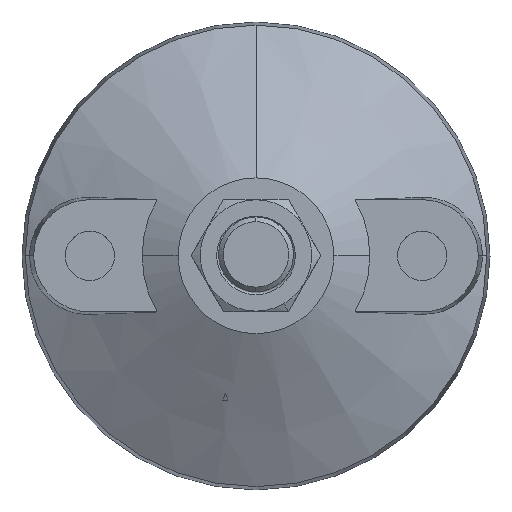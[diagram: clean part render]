
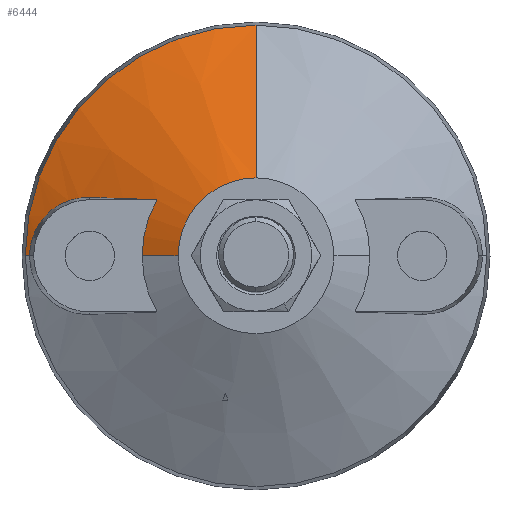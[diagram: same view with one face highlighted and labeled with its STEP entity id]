
A CAD part, top view. The second image highlights one B-rep face of the part: STEP entity #6444.
In plain terms, the highlighted conical face has half-angle 62.5 degrees and reference radius 16.644 mm.
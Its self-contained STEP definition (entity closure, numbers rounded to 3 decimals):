
#24 = CARTESIAN_POINT ( 'NONE',  ( -25.968, 12.158, 20.745 ) ) ;
#160 = CARTESIAN_POINT ( 'NONE',  ( 0., 0., 27. ) ) ;
#305 = CARTESIAN_POINT ( 'NONE',  ( -39.403, 12.001, 14.222 ) ) ;
#335 = CARTESIAN_POINT ( 'NONE',  ( -47.122, 5.479, 10.97 ) ) ;
#379 = EDGE_CURVE ( 'NONE', #1112, #3037, #7641, .T. ) ;
#562 = AXIS2_PLACEMENT_3D ( 'NONE', #5913, #1939, #6557 ) ;
#592 = ORIENTED_EDGE ( 'NONE', *, *, #4743, .T. ) ;
#686 = EDGE_CURVE ( 'NONE', #8523, #1112, #7486, .T. ) ;
#729 = CARTESIAN_POINT ( 'NONE',  ( -32.972, 0., 18.5 ) ) ;
#761 = CARTESIAN_POINT ( 'NONE',  ( 0., 16.644, 27. ) ) ;
#829 = CARTESIAN_POINT ( 'NONE',  ( 0., 0., 27. ) ) ;
#840 = DIRECTION ( 'NONE',  ( 0., 1., 0. ) ) ;
#849 = CARTESIAN_POINT ( 'NONE',  ( -48.375, 0., 10.482 ) ) ;
#886 = EDGE_CURVE ( 'NONE', #3379, #6503, #3384, .T. ) ;
#972 = CARTESIAN_POINT ( 'NONE',  ( -40.932, 11.466, 13.537 ) ) ;
#1005 = CARTESIAN_POINT ( 'NONE',  ( -47.915, 3.477, 10.66 ) ) ;
#1112 = VERTEX_POINT ( 'NONE', #2035 ) ;
#1364 = CARTESIAN_POINT ( 'NONE',  ( -30.743, 12.32, 18.429 ) ) ;
#1633 = CARTESIAN_POINT ( 'NONE',  ( -42.708, 10.482, 12.772 ) ) ;
#1665 = CARTESIAN_POINT ( 'NONE',  ( -48.259, 1.756, 10.526 ) ) ;
#1892 = CARTESIAN_POINT ( 'NONE',  ( 0., 49.301, 10. ) ) ;
#1939 = DIRECTION ( 'NONE',  ( 0., 0., -1. ) ) ;
#2013 = CARTESIAN_POINT ( 'NONE',  ( -35.5, 12.484, 16.075 ) ) ;
#2035 = CARTESIAN_POINT ( 'NONE',  ( -21.162, 12., 23. ) ) ;
#2072 = CONICAL_SURFACE ( 'NONE', #4959, 16.644, 1.091 ) ;
#2138 = CIRCLE ( 'NONE', #8180, 49.301 ) ;
#2145 = VECTOR ( 'NONE', #7369, 1000. ) ;
#2260 = CARTESIAN_POINT ( 'NONE',  ( -35.5, 12.484, 16.075 ) ) ;
#2289 = CARTESIAN_POINT ( 'NONE',  ( -43.712, 9.755, 12.35 ) ) ;
#2318 = CARTESIAN_POINT ( 'NONE',  ( -48.375, 0.442, 10.482 ) ) ;
#2481 = CARTESIAN_POINT ( 'NONE',  ( 0., 0., 10. ) ) ;
#2760 = DIRECTION ( 'NONE',  ( 0., 1., 0. ) ) ;
#2868 = ORIENTED_EDGE ( 'NONE', *, *, #4423, .T. ) ;
#2962 = CARTESIAN_POINT ( 'NONE',  ( -44.962, 8.632, 11.834 ) ) ;
#3037 = VERTEX_POINT ( 'NONE', #3202 ) ;
#3120 = ORIENTED_EDGE ( 'NONE', *, *, #886, .T. ) ;
#3149 = DIRECTION ( 'NONE',  ( -1., 0., 0. ) ) ;
#3202 = CARTESIAN_POINT ( 'NONE',  ( -35.5, 12.484, 16.075 ) ) ;
#3263 = ORIENTED_EDGE ( 'NONE', *, *, #7532, .T. ) ;
#3379 = VERTEX_POINT ( 'NONE', #8235 ) ;
#3384 = LINE ( 'NONE', #6232, #6476 ) ;
#3481 = CARTESIAN_POINT ( 'NONE',  ( -24.328, 0., 23. ) ) ;
#3606 = CARTESIAN_POINT ( 'NONE',  ( -37.073, 12.464, 15.305 ) ) ;
#3646 = CARTESIAN_POINT ( 'NONE',  ( -46.262, 6.974, 11.31 ) ) ;
#4048 = FACE_OUTER_BOUND ( 'NONE', #5806, .T. ) ;
#4129 = DIRECTION ( 'NONE',  ( 0., 0., -1. ) ) ;
#4262 = VERTEX_POINT ( 'NONE', #5623 ) ;
#4283 = CARTESIAN_POINT ( 'NONE',  ( -38.63, 12.2, 14.576 ) ) ;
#4309 = CARTESIAN_POINT ( 'NONE',  ( -46.925, 5.866, 11.047 ) ) ;
#4423 = EDGE_CURVE ( 'NONE', #8523, #4262, #5177, .T. ) ;
#4669 = CARTESIAN_POINT ( 'NONE',  ( -23.573, 12.078, 21.889 ) ) ;
#4673 = EDGE_CURVE ( 'NONE', #3037, #6503, #5585, .T. ) ;
#4709 = DIRECTION ( 'NONE',  ( 0.887, 0., 0.462 ) ) ;
#4743 = EDGE_CURVE ( 'NONE', #7925, #3379, #2138, .T. ) ;
#4801 = DIRECTION ( 'NONE',  ( 0., 0., 1. ) ) ;
#4948 = CARTESIAN_POINT ( 'NONE',  ( -39.79, 11.882, 14.047 ) ) ;
#4959 = AXIS2_PLACEMENT_3D ( 'NONE', #829, #4129, #2760 ) ;
#4986 = CARTESIAN_POINT ( 'NONE',  ( -47.647, 4.298, 10.764 ) ) ;
#5177 = LINE ( 'NONE', #729, #6891 ) ;
#5330 = CARTESIAN_POINT ( 'NONE',  ( -21.162, 12., 23. ) ) ;
#5585 = B_SPLINE_CURVE_WITH_KNOTS ( 'NONE', 3,
 ( #2260, #6225, #3606, #8213, #4283, #305, #4948, #972, #5608, #1633, #6251, #2289, #6917, #2962, #7573, #3646, #8247, #4309, #335, #4986, #1005, #5637, #1665, #6285, #2318, #6946 ),
 .UNSPECIFIED., .F., .F.,
 ( 4, 2, 2, 2, 2, 2, 2, 2, 2, 2, 2, 2, 4 ),
 ( 0., 0.003, 0.004, 0.005, 0.008, 0.009, 0.01, 0.013, 0.014, 0.016, 0.018, 0.02, 0.021 ),
 .UNSPECIFIED. ) ;
#5608 = CARTESIAN_POINT ( 'NONE',  ( -41.663, 11.116, 13.219 ) ) ;
#5623 = CARTESIAN_POINT ( 'NONE',  ( -16.644, 0., 27. ) ) ;
#5637 = CARTESIAN_POINT ( 'NONE',  ( -48.19, 2.194, 10.553 ) ) ;
#5718 = DIRECTION ( 'NONE',  ( 0.887, 0., 0.462 ) ) ;
#5806 = EDGE_LOOP ( 'NONE', ( #8169, #3263, #592, #3120, #8023, #8577, #7295, #2868 ) ) ;
#5913 = CARTESIAN_POINT ( 'NONE',  ( 0., 0., 23. ) ) ;
#5984 = CARTESIAN_POINT ( 'NONE',  ( -33.124, 12.402, 17.256 ) ) ;
#6225 = CARTESIAN_POINT ( 'NONE',  ( -36.289, 12.512, 15.683 ) ) ;
#6232 = CARTESIAN_POINT ( 'NONE',  ( -32.972, 0., 18.5 ) ) ;
#6251 = CARTESIAN_POINT ( 'NONE',  ( -43.049, 10.253, 12.628 ) ) ;
#6285 = CARTESIAN_POINT ( 'NONE',  ( -48.352, 0.882, 10.491 ) ) ;
#6331 = AXIS2_PLACEMENT_3D ( 'NONE', #160, #4801, #840 ) ;
#6444 = ADVANCED_FACE ( 'NONE', ( #4048 ), #2072, .T. ) ;
#6476 = VECTOR ( 'NONE', #5718, 1000. ) ;
#6503 = VERTEX_POINT ( 'NONE', #849 ) ;
#6557 = DIRECTION ( 'NONE',  ( 0., 1., 0. ) ) ;
#6615 = CIRCLE ( 'NONE', #6331, 16.644 ) ;
#6891 = VECTOR ( 'NONE', #4709, 1000. ) ;
#6917 = CARTESIAN_POINT ( 'NONE',  ( -44.037, 9.485, 12.215 ) ) ;
#6946 = CARTESIAN_POINT ( 'NONE',  ( -48.375, 0., 10.482 ) ) ;
#6977 = EDGE_CURVE ( 'NONE', #7991, #4262, #6615, .T. ) ;
#7096 = DIRECTION ( 'NONE',  ( 0., 0., 1. ) ) ;
#7222 = LINE ( 'NONE', #761, #2145 ) ;
#7256 = CARTESIAN_POINT ( 'NONE',  ( 0., 16.644, 27. ) ) ;
#7295 = ORIENTED_EDGE ( 'NONE', *, *, #686, .F. ) ;
#7369 = DIRECTION ( 'NONE',  ( 0., 0.887, -0.462 ) ) ;
#7486 = CIRCLE ( 'NONE', #562, 24.328 ) ;
#7532 = EDGE_CURVE ( 'NONE', #7991, #7925, #7222, .T. ) ;
#7573 = CARTESIAN_POINT ( 'NONE',  ( -45.52, 8.005, 11.608 ) ) ;
#7641 = B_SPLINE_CURVE_WITH_KNOTS ( 'NONE', 3,
 ( #5330, #4669, #24, #1364, #5984, #2013 ),
 .UNSPECIFIED., .F., .F.,
 ( 4, 2, 4 ),
 ( 0., 0.008, 0.016 ),
 .UNSPECIFIED. ) ;
#7925 = VERTEX_POINT ( 'NONE', #1892 ) ;
#7991 = VERTEX_POINT ( 'NONE', #7256 ) ;
#8023 = ORIENTED_EDGE ( 'NONE', *, *, #4673, .F. ) ;
#8169 = ORIENTED_EDGE ( 'NONE', *, *, #6977, .F. ) ;
#8180 = AXIS2_PLACEMENT_3D ( 'NONE', #2481, #7096, #3149 ) ;
#8213 = CARTESIAN_POINT ( 'NONE',  ( -38.242, 12.28, 14.756 ) ) ;
#8235 = CARTESIAN_POINT ( 'NONE',  ( -49.301, 0., 10. ) ) ;
#8247 = CARTESIAN_POINT ( 'NONE',  ( -46.495, 6.615, 11.218 ) ) ;
#8523 = VERTEX_POINT ( 'NONE', #3481 ) ;
#8577 = ORIENTED_EDGE ( 'NONE', *, *, #379, .F. ) ;
